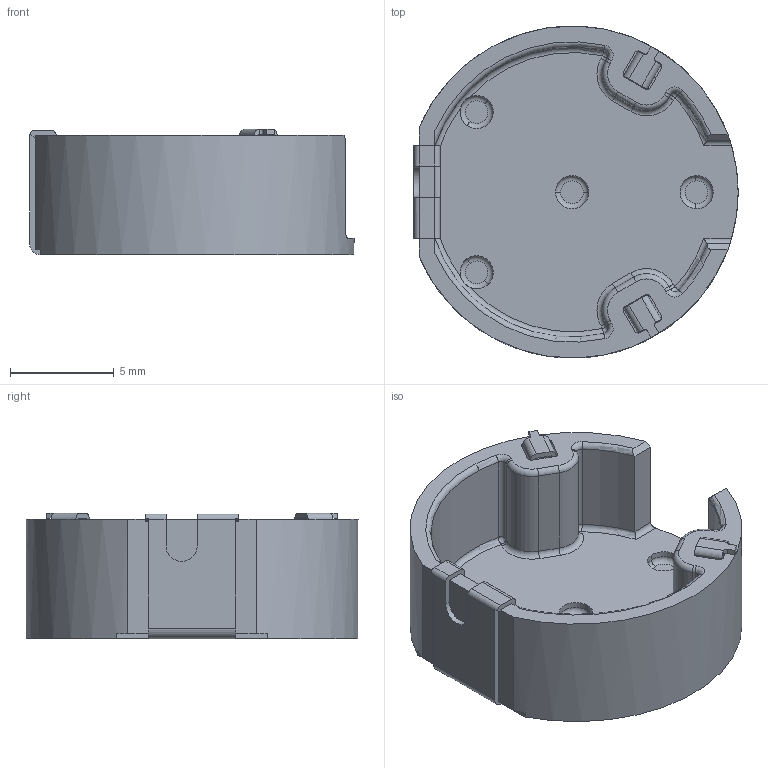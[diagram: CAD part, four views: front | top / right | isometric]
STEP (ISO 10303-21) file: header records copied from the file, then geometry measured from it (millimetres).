
FILE_DESCRIPTION((''),'2;1');
FILE_NAME('C-1513504-1','2011-04-26T',('workeradm'),('Tyco Electronics Ltd.'),'PRO/ENGINEER BY PARAMETRIC TECHNOLOGY CORPORATION, 2009300','PRO/ENGINEER BY PARAMETRIC TECHNOLOGY CORPORATION, 2009300','');
FILE_SCHEMA(('AUTOMOTIVE_DESIGN { 1 0 10303 214 1 1 1 1 }'));
Length unit declared in the file: millimetre
Products named in the file (1): C-1513504-1
Bounding box: 15.63 x 16 x 6.05 mm (x, y, z)
Volume: 422.7 mm3; surface area: 921.6 mm2
Topology: 1 solids, 1 shells, 168 faces, 430 edges, 268 vertices
Faces by surface type: plane 78, cylinder 58, torus 28, sphere 4
Entity records: 6717 total; most frequent: CARTESIAN_POINT 986, DIRECTION 912, ORIENTED_EDGE 860, PRESENTATION_STYLE_ASSIGNMENT 431, STYLED_ITEM 431, CURVE_STYLE 430, EDGE_CURVE 430, AXIS2_PLACEMENT_3D 330
